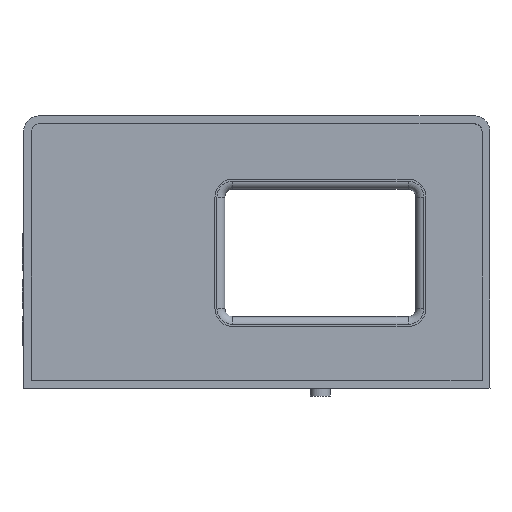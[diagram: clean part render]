
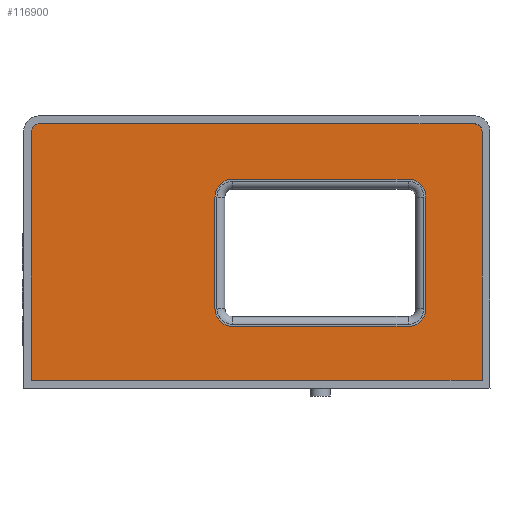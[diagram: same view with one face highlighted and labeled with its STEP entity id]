
A CAD part, top view. The second image highlights one B-rep face of the part: STEP entity #116900.
In plain terms, the highlighted planar face has unit normal (0, 0, 1).
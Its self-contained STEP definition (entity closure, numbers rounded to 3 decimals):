
#5600=CARTESIAN_POINT('',(19.296,16.096,17.5));
#5610=VERTEX_POINT('',#5600);
#5770=CARTESIAN_POINT('',(20.296,15.096,17.5));
#5780=VERTEX_POINT('',#5770);
#5810=CARTESIAN_POINT('',(19.296,15.096,17.5));
#5820=DIRECTION('',(-0.,0.,1.));
#5830=DIRECTION('',(0.707,0.707,0.));
#5840=AXIS2_PLACEMENT_3D('',#5810,#5820,#5830);
#5850=ELLIPSE('',#5840,1.,1.);
#5860=EDGE_CURVE('',#5780,#5610,#5850,.T.);
#69050=CARTESIAN_POINT('',(20.296,-16.1,17.5));
#69060=VERTEX_POINT('',#69050);
#69090=CARTESIAN_POINT('',(20.296,0.,17.5));
#69100=DIRECTION('',(0.,-1.,0.));
#69110=VECTOR('',#69100,1.);
#69120=LINE('',#69090,#69110);
#69130=EDGE_CURVE('',#5780,#69060,#69120,.T.);
#75520=CARTESIAN_POINT('',(11.,-9.35,17.5));
#75530=VERTEX_POINT('',#75520);
#75560=CARTESIAN_POINT('',(0.,-9.35,17.5));
#75570=DIRECTION('',(1.,-0.,0.));
#75580=VECTOR('',#75570,1.);
#75590=LINE('',#75560,#75580);
#75600=CARTESIAN_POINT('',(-11.,-9.35,17.5));
#75610=VERTEX_POINT('',#75600);
#75620=EDGE_CURVE('',#75610,#75530,#75590,.T.);
#115210=CARTESIAN_POINT('',(0.,16.096,17.5));
#115220=DIRECTION('',(-1.,-0.,0.));
#115230=VECTOR('',#115220,1.);
#115240=LINE('',#115210,#115230);
#115250=CARTESIAN_POINT('',(-35.296,16.096,17.5));
#115260=VERTEX_POINT('',#115250);
#115270=EDGE_CURVE('',#5610,#115260,#115240,.T.);
#115960=CARTESIAN_POINT('',(0.,-12.725,17.5));
#115970=DIRECTION('',(-0.,0.,1.));
#115980=DIRECTION('',(0.,-1.,0.));
#115990=AXIS2_PLACEMENT_3D('',#115960,#115970,#115980);
#116000=PLANE('',#115990);
#116010=ORIENTED_EDGE('',*,*,#5860,.T.);
#116020=ORIENTED_EDGE('',*,*,#69130,.F.);
#116030=CARTESIAN_POINT('',(0.,-16.1,17.5));
#116040=DIRECTION('',(1.,0.,0.));
#116050=VECTOR('',#116040,1.);
#116060=LINE('',#116030,#116050);
#116070=CARTESIAN_POINT('',(-36.296,-16.1,17.5));
#116080=VERTEX_POINT('',#116070);
#116090=EDGE_CURVE('',#116080,#69060,#116060,.T.);
#116100=ORIENTED_EDGE('',*,*,#116090,.T.);
#116110=CARTESIAN_POINT('',(-36.296,0.,17.5));
#116120=DIRECTION('',(0.,1.,-0.));
#116130=VECTOR('',#116120,1.);
#116140=LINE('',#116110,#116130);
#116150=CARTESIAN_POINT('',(-36.296,15.096,17.5));
#116160=VERTEX_POINT('',#116150);
#116170=EDGE_CURVE('',#116080,#116160,#116140,.T.);
#116180=ORIENTED_EDGE('',*,*,#116170,.F.);
#116190=CARTESIAN_POINT('',(-35.296,15.096,17.5));
#116200=DIRECTION('',(-0.,0.,1.));
#116210=DIRECTION('',(0.707,-0.707,0.));
#116220=AXIS2_PLACEMENT_3D('',#116190,#116200,#116210);
#116230=ELLIPSE('',#116220,1.,1.);
#116240=EDGE_CURVE('',#115260,#116160,#116230,.T.);
#116250=ORIENTED_EDGE('',*,*,#116240,.T.);
#116260=ORIENTED_EDGE('',*,*,#115270,.T.);
#116270=EDGE_LOOP('',(#116260,#116250,#116180,#116100,#116020,#116010));
#116280=FACE_OUTER_BOUND('',#116270,.T.);
#116290=CARTESIAN_POINT('',(-11.,-7.1,17.5));
#116300=DIRECTION('',(0.,0.,-1.));
#116310=DIRECTION('',(-1.,0.,0.));
#116320=AXIS2_PLACEMENT_3D('',#116290,#116300,#116310);
#116330=CIRCLE('',#116320,2.25);
#116340=CARTESIAN_POINT('',(-13.25,-7.1,17.5));
#116350=VERTEX_POINT('',#116340);
#116360=EDGE_CURVE('',#75610,#116350,#116330,.T.);
#116370=ORIENTED_EDGE('',*,*,#116360,.T.);
#116380=ORIENTED_EDGE('',*,*,#75620,.F.);
#116390=CARTESIAN_POINT('',(11.,-7.1,17.5));
#116400=DIRECTION('',(0.,0.,1.));
#116410=DIRECTION('',(1.,0.,0.));
#116420=AXIS2_PLACEMENT_3D('',#116390,#116400,#116410);
#116430=CIRCLE('',#116420,2.25);
#116440=CARTESIAN_POINT('',(13.25,-7.1,17.5));
#116450=VERTEX_POINT('',#116440);
#116460=EDGE_CURVE('',#75530,#116450,#116430,.T.);
#116470=ORIENTED_EDGE('',*,*,#116460,.F.);
#116480=CARTESIAN_POINT('',(13.25,0.,17.5));
#116490=DIRECTION('',(0.,1.,-0.));
#116500=VECTOR('',#116490,1.);
#116510=LINE('',#116480,#116500);
#116520=CARTESIAN_POINT('',(13.25,6.9,17.5));
#116530=VERTEX_POINT('',#116520);
#116540=EDGE_CURVE('',#116450,#116530,#116510,.T.);
#116550=ORIENTED_EDGE('',*,*,#116540,.F.);
#116560=CARTESIAN_POINT('',(11.,6.9,17.5));
#116570=DIRECTION('',(0.,0.,-1.));
#116580=DIRECTION('',(-1.,0.,0.));
#116590=AXIS2_PLACEMENT_3D('',#116560,#116570,#116580);
#116600=CIRCLE('',#116590,2.25);
#116610=CARTESIAN_POINT('',(11.,9.15,17.5));
#116620=VERTEX_POINT('',#116610);
#116630=EDGE_CURVE('',#116620,#116530,#116600,.T.);
#116640=ORIENTED_EDGE('',*,*,#116630,.T.);
#116650=CARTESIAN_POINT('',(0.,9.15,17.5));
#116660=DIRECTION('',(-1.,-0.,0.));
#116670=VECTOR('',#116660,1.);
#116680=LINE('',#116650,#116670);
#116690=CARTESIAN_POINT('',(-11.,9.15,17.5));
#116700=VERTEX_POINT('',#116690);
#116710=EDGE_CURVE('',#116620,#116700,#116680,.T.);
#116720=ORIENTED_EDGE('',*,*,#116710,.F.);
#116730=CARTESIAN_POINT('',(-11.,6.9,17.5));
#116740=DIRECTION('',(0.,0.,-1.));
#116750=DIRECTION('',(-1.,0.,0.));
#116760=AXIS2_PLACEMENT_3D('',#116730,#116740,#116750);
#116770=CIRCLE('',#116760,2.25);
#116780=CARTESIAN_POINT('',(-13.25,6.9,17.5));
#116790=VERTEX_POINT('',#116780);
#116800=EDGE_CURVE('',#116790,#116700,#116770,.T.);
#116810=ORIENTED_EDGE('',*,*,#116800,.T.);
#116820=CARTESIAN_POINT('',(-13.25,0.,17.5));
#116830=DIRECTION('',(0.,-1.,0.));
#116840=VECTOR('',#116830,1.);
#116850=LINE('',#116820,#116840);
#116860=EDGE_CURVE('',#116790,#116350,#116850,.T.);
#116870=ORIENTED_EDGE('',*,*,#116860,.F.);
#116880=EDGE_LOOP('',(#116870,#116810,#116720,#116640,#116550,#116470,
#116380,#116370));
#116890=FACE_BOUND('',#116880,.T.);
#116900=ADVANCED_FACE('',(#116280,#116890),#116000,.T.);
